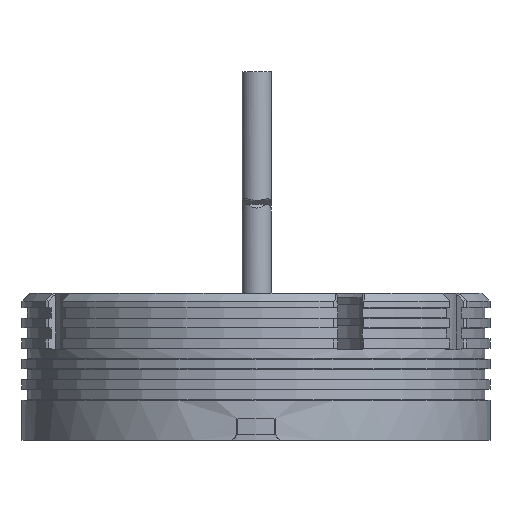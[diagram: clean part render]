
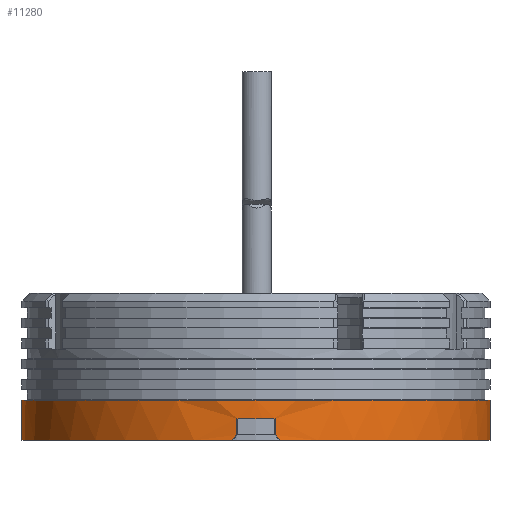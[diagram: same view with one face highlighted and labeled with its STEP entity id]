
A CAD part, front view. The second image highlights one B-rep face of the part: STEP entity #11280.
In plain terms, the highlighted cylindrical face has radius 43 mm (diameter 86 mm), a partial arc.
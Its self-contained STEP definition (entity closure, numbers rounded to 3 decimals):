
#174 = CARTESIAN_POINT ( 'NONE',  ( 43., 0., 27. ) ) ;
#228 = DIRECTION ( 'NONE',  ( -1., 0., 0. ) ) ;
#477 = CARTESIAN_POINT ( 'NONE',  ( 4.164, -42.799, 0.333 ) ) ;
#757 = ORIENTED_EDGE ( 'NONE', *, *, #8199, .F. ) ;
#1153 = CARTESIAN_POINT ( 'NONE',  ( 3.5, -42.857, 1. ) ) ;
#1607 = VERTEX_POINT ( 'NONE', #9610 ) ;
#1974 = VERTEX_POINT ( 'NONE', #1153 ) ;
#3195 = VECTOR ( 'NONE', #13453, 1000. ) ;
#3482 = CYLINDRICAL_SURFACE ( 'NONE', #7179, 43. ) ;
#3775 = CARTESIAN_POINT ( 'NONE',  ( 3.5, -42.857, 1. ) ) ;
#3839 = CARTESIAN_POINT ( 'NONE',  ( -3.5, -42.857, 1. ) ) ;
#4121 = VERTEX_POINT ( 'NONE', #21851 ) ;
#4229 = ORIENTED_EDGE ( 'NONE', *, *, #12204, .T. ) ;
#5278 = CIRCLE ( 'NONE', #5292, 43. ) ;
#5292 = AXIS2_PLACEMENT_3D ( 'NONE', #10344, #8855, #228 ) ;
#5477 = CARTESIAN_POINT ( 'NONE',  ( 4.496, -42.764, 0. ) ) ;
#5674 = LINE ( 'NONE', #12585, #19239 ) ;
#6372 = CARTESIAN_POINT ( 'NONE',  ( -43., 0., 7.4 ) ) ;
#6442 = CIRCLE ( 'NONE', #14408, 43. ) ;
#6537 = LINE ( 'NONE', #18785, #3195 ) ;
#6547 = EDGE_CURVE ( 'NONE', #8510, #19850, #19021, .T. ) ;
#6951 = EDGE_CURVE ( 'NONE', #11263, #21556, #6442, .T. ) ;
#7179 = AXIS2_PLACEMENT_3D ( 'NONE', #14118, #8696, #21049 ) ;
#7327 = CARTESIAN_POINT ( 'NONE',  ( -3.832, -42.83, 0.667 ) ) ;
#7471 = DIRECTION ( 'NONE',  ( 0., 0., -1. ) ) ;
#7827 = VECTOR ( 'NONE', #20637, 1000. ) ;
#7879 = ORIENTED_EDGE ( 'NONE', *, *, #15297, .T. ) ;
#8192 = DIRECTION ( 'NONE',  ( 0., 0., 1. ) ) ;
#8199 = EDGE_CURVE ( 'NONE', #11263, #8485, #15729, .T. ) ;
#8292 = CARTESIAN_POINT ( 'NONE',  ( 0., 0., 4. ) ) ;
#8431 = VECTOR ( 'NONE', #14460, 1000. ) ;
#8485 = VERTEX_POINT ( 'NONE', #13880 ) ;
#8510 = VERTEX_POINT ( 'NONE', #19192 ) ;
#8696 = DIRECTION ( 'NONE',  ( 0., 0., -1. ) ) ;
#8855 = DIRECTION ( 'NONE',  ( 0., 0., 1. ) ) ;
#9036 = CARTESIAN_POINT ( 'NONE',  ( -4.164, -42.799, 0.333 ) ) ;
#9469 = AXIS2_PLACEMENT_3D ( 'NONE', #21930, #8192, #14670 ) ;
#9610 = CARTESIAN_POINT ( 'NONE',  ( 3.5, -42.857, 4. ) ) ;
#9995 = ORIENTED_EDGE ( 'NONE', *, *, #21928, .T. ) ;
#10059 = AXIS2_PLACEMENT_3D ( 'NONE', #8292, #13517, #20443 ) ;
#10089 =( BOUNDED_CURVE ( )  B_SPLINE_CURVE ( 3, ( #3775, #14203, #477, #5477 ),
 .UNSPECIFIED., .F., .F. ) 
 B_SPLINE_CURVE_WITH_KNOTS ( ( 4, 4 ),
 ( 4.712, 4.736 ),
 .UNSPECIFIED. ) 
 CURVE ( )  GEOMETRIC_REPRESENTATION_ITEM ( )  RATIONAL_B_SPLINE_CURVE ( ( 1., 1., 1., 1. ) ) 
 REPRESENTATION_ITEM ( '' )  );
#10344 = CARTESIAN_POINT ( 'NONE',  ( 0., 0., 0. ) ) ;
#10539 = CIRCLE ( 'NONE', #9469, 43. ) ;
#10844 = CARTESIAN_POINT ( 'NONE',  ( -4.496, -42.764, 0. ) ) ;
#10862 = ORIENTED_EDGE ( 'NONE', *, *, #17616, .T. ) ;
#10998 = CARTESIAN_POINT ( 'NONE',  ( 0., 0., 7.4 ) ) ;
#11263 = VERTEX_POINT ( 'NONE', #15828 ) ;
#11280 = ADVANCED_FACE ( 'NONE', ( #20836 ), #3482, .T. ) ;
#12061 = ORIENTED_EDGE ( 'NONE', *, *, #14736, .T. ) ;
#12181 = ORIENTED_EDGE ( 'NONE', *, *, #21652, .F. ) ;
#12204 = EDGE_CURVE ( 'NONE', #18945, #8510, #5278, .T. ) ;
#12585 = CARTESIAN_POINT ( 'NONE',  ( 3.5, -42.857, 27. ) ) ;
#12607 = EDGE_CURVE ( 'NONE', #21556, #18945, #18699, .T. ) ;
#13453 = DIRECTION ( 'NONE',  ( 0., 0., 1. ) ) ;
#13517 = DIRECTION ( 'NONE',  ( 0., 0., -1. ) ) ;
#13880 = CARTESIAN_POINT ( 'NONE',  ( 43., 0., 0. ) ) ;
#14118 = CARTESIAN_POINT ( 'NONE',  ( 0., 0., 27. ) ) ;
#14203 = CARTESIAN_POINT ( 'NONE',  ( 3.832, -42.83, 0.667 ) ) ;
#14408 = AXIS2_PLACEMENT_3D ( 'NONE', #10998, #7471, #14737 ) ;
#14460 = DIRECTION ( 'NONE',  ( 0., 0., -1. ) ) ;
#14670 = DIRECTION ( 'NONE',  ( -1., 0., 0. ) ) ;
#14736 = EDGE_CURVE ( 'NONE', #1974, #4121, #10089, .T. ) ;
#14737 = DIRECTION ( 'NONE',  ( -1., 0., 0. ) ) ;
#15297 = EDGE_CURVE ( 'NONE', #1607, #1974, #5674, .T. ) ;
#15381 = CARTESIAN_POINT ( 'NONE',  ( -43., 0., 0. ) ) ;
#15646 = CARTESIAN_POINT ( 'NONE',  ( -43., 0., 27. ) ) ;
#15729 = LINE ( 'NONE', #174, #8431 ) ;
#15828 = CARTESIAN_POINT ( 'NONE',  ( 43., 0., 7.4 ) ) ;
#15887 = VERTEX_POINT ( 'NONE', #20839 ) ;
#16860 = ORIENTED_EDGE ( 'NONE', *, *, #12607, .T. ) ;
#17616 = EDGE_CURVE ( 'NONE', #4121, #8485, #10539, .T. ) ;
#17727 = EDGE_LOOP ( 'NONE', ( #757, #20671, #16860, #4229, #17750, #9995, #12181, #7879, #12061, #10862 ) ) ;
#17750 = ORIENTED_EDGE ( 'NONE', *, *, #6547, .T. ) ;
#18699 = LINE ( 'NONE', #15646, #7827 ) ;
#18785 = CARTESIAN_POINT ( 'NONE',  ( -3.5, -42.857, 27. ) ) ;
#18945 = VERTEX_POINT ( 'NONE', #15381 ) ;
#19021 =( BOUNDED_CURVE ( )  B_SPLINE_CURVE ( 3, ( #10844, #9036, #7327, #21177 ),
 .UNSPECIFIED., .F., .T. ) 
 B_SPLINE_CURVE_WITH_KNOTS ( ( 4, 4 ),
 ( 1.548, 1.571 ),
 .UNSPECIFIED. ) 
 CURVE ( )  GEOMETRIC_REPRESENTATION_ITEM ( )  RATIONAL_B_SPLINE_CURVE ( ( 1., 1., 1., 1. ) ) 
 REPRESENTATION_ITEM ( '' )  );
#19192 = CARTESIAN_POINT ( 'NONE',  ( -4.496, -42.764, 0. ) ) ;
#19239 = VECTOR ( 'NONE', #19502, 1000. ) ;
#19502 = DIRECTION ( 'NONE',  ( 0., 0., -1. ) ) ;
#19825 = CIRCLE ( 'NONE', #10059, 43. ) ;
#19850 = VERTEX_POINT ( 'NONE', #3839 ) ;
#20443 = DIRECTION ( 'NONE',  ( -1., 0., 0. ) ) ;
#20637 = DIRECTION ( 'NONE',  ( 0., 0., -1. ) ) ;
#20671 = ORIENTED_EDGE ( 'NONE', *, *, #6951, .T. ) ;
#20836 = FACE_OUTER_BOUND ( 'NONE', #17727, .T. ) ;
#20839 = CARTESIAN_POINT ( 'NONE',  ( -3.5, -42.857, 4. ) ) ;
#21049 = DIRECTION ( 'NONE',  ( -1., 0., 0. ) ) ;
#21177 = CARTESIAN_POINT ( 'NONE',  ( -3.5, -42.857, 1. ) ) ;
#21556 = VERTEX_POINT ( 'NONE', #6372 ) ;
#21652 = EDGE_CURVE ( 'NONE', #1607, #15887, #19825, .T. ) ;
#21851 = CARTESIAN_POINT ( 'NONE',  ( 4.496, -42.764, 0. ) ) ;
#21928 = EDGE_CURVE ( 'NONE', #19850, #15887, #6537, .T. ) ;
#21930 = CARTESIAN_POINT ( 'NONE',  ( 0., 0., 0. ) ) ;
